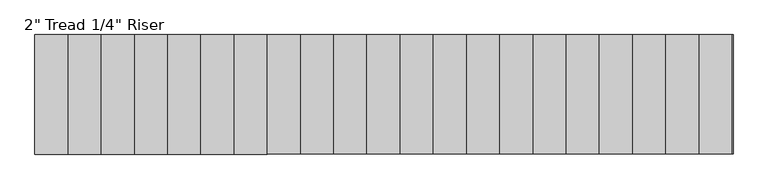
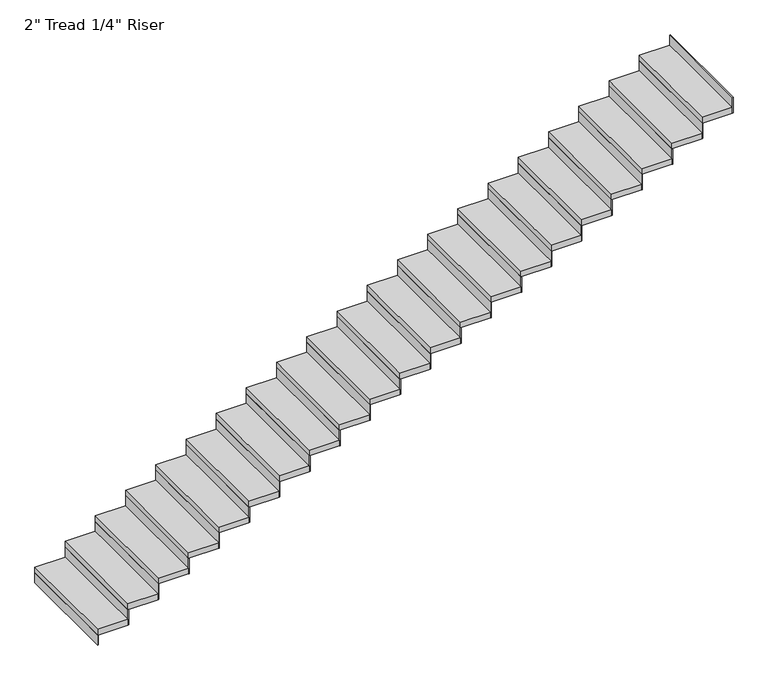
"""IFC4 building model written with IfcOpenShell, lengths in millimetres: stair flight geometry."""

from ifc_helpers import new_model, si_unit, frame, origin, origin_with_axes, place, context, project, spatial, polyline, outline, extrude, source, transform, mapped, element, save


def stair_flight_a9e391cd(model_context):
    return source(origin(), model_context, "Body", "SweptSolid", [
        extrude(outline(polyline([(35788.4072927, -52193.6426165), (35782.0572927, -52193.6426165), (35782.0572927, -51279.2426165), (35788.4072927, -51279.2426165), (35788.4072927, -52193.6426165)])), origin_with_axes(), (0.0, 0.0, 1.0), 87.7454545),
        extrude(outline(polyline([(36036.0572927, -51279.2426165), (36036.0572927, -52193.6426165), (35782.0572927, -52193.6426165), (35782.0572927, -51279.2426165), (36036.0572927, -51279.2426165)])), frame((0.0, 0.0, 87.7454545), z_axis=(0.0, 0.0, 1.0), x_axis=(1.0, 0.0, 0.0)), (0.0, 0.0, 1.0), 50.8),
        extrude(outline(polyline([(36042.4072927, -52193.6426165), (36036.0572927, -52193.6426165), (36036.0572927, -51279.2426165), (36042.4072927, -51279.2426165), (36042.4072927, -52193.6426165)])), frame((0.0, 0.0, 87.7454545), z_axis=(0.0, 0.0, 1.0), x_axis=(1.0, 0.0, 0.0)), (0.0, 0.0, 1.0), 138.5454545),
        extrude(outline(polyline([(36290.0572927, -51279.2426165), (36290.0572927, -52193.6426165), (36036.0572927, -52193.6426165), (36036.0572927, -51279.2426165), (36290.0572927, -51279.2426165)])), frame((0.0, 0.0, 226.2909091), z_axis=(0.0, 0.0, 1.0), x_axis=(1.0, 0.0, 0.0)), (0.0, 0.0, 1.0), 50.8),
        extrude(outline(polyline([(36296.4072927, -52193.6426165), (36290.0572927, -52193.6426165), (36290.0572927, -51279.2426165), (36296.4072927, -51279.2426165), (36296.4072927, -52193.6426165)])), frame((0.0, 0.0, 226.2909091), z_axis=(0.0, 0.0, 1.0), x_axis=(1.0, 0.0, 0.0)), (0.0, 0.0, 1.0), 138.5454545),
        extrude(outline(polyline([(36544.0572927, -51279.2426165), (36544.0572927, -52193.6426165), (36290.0572927, -52193.6426165), (36290.0572927, -51279.2426165), (36544.0572927, -51279.2426165)])), frame((0.0, 0.0, 364.8363636), z_axis=(0.0, 0.0, 1.0), x_axis=(1.0, 0.0, 0.0)), (0.0, 0.0, 1.0), 50.8),
        extrude(outline(polyline([(36550.4072927, -52193.6426165), (36544.0572927, -52193.6426165), (36544.0572927, -51279.2426165), (36550.4072927, -51279.2426165), (36550.4072927, -52193.6426165)])), frame((0.0, 0.0, 364.8363636), z_axis=(0.0, 0.0, 1.0), x_axis=(1.0, 0.0, 0.0)), (0.0, 0.0, 1.0), 138.5454545),
        extrude(outline(polyline([(36798.0572927, -51279.2426165), (36798.0572927, -52193.6426165), (36544.0572927, -52193.6426165), (36544.0572927, -51279.2426165), (36798.0572927, -51279.2426165)])), frame((0.0, 0.0, 503.3818182), z_axis=(0.0, 0.0, 1.0), x_axis=(1.0, 0.0, 0.0)), (0.0, 0.0, 1.0), 50.8),
        extrude(outline(polyline([(36804.4072927, -52193.6426165), (36798.0572927, -52193.6426165), (36798.0572927, -51279.2426165), (36804.4072927, -51279.2426165), (36804.4072927, -52193.6426165)])), frame((0.0, 0.0, 503.3818182), z_axis=(0.0, 0.0, 1.0), x_axis=(1.0, 0.0, 0.0)), (0.0, 0.0, 1.0), 138.5454545),
        extrude(outline(polyline([(37052.0572927, -51279.2426165), (37052.0572927, -52193.6426165), (36798.0572927, -52193.6426165), (36798.0572927, -51279.2426165), (37052.0572927, -51279.2426165)])), frame((0.0, 0.0, 641.9272727), z_axis=(0.0, 0.0, 1.0), x_axis=(1.0, 0.0, 0.0)), (0.0, 0.0, 1.0), 50.8),
        extrude(outline(polyline([(37058.4072927, -52193.6426165), (37052.0572927, -52193.6426165), (37052.0572927, -51279.2426165), (37058.4072927, -51279.2426165), (37058.4072927, -52193.6426165)])), frame((0.0, 0.0, 641.9272727), z_axis=(0.0, 0.0, 1.0), x_axis=(1.0, 0.0, 0.0)), (0.0, 0.0, 1.0), 138.5454545),
        extrude(outline(polyline([(37306.0572927, -51279.2426165), (37306.0572927, -52193.6426165), (37052.0572927, -52193.6426165), (37052.0572927, -51279.2426165), (37306.0572927, -51279.2426165)])), frame((0.0, 0.0, 780.4727273), z_axis=(0.0, 0.0, 1.0), x_axis=(1.0, 0.0, 0.0)), (0.0, 0.0, 1.0), 50.8),
        extrude(outline(polyline([(37312.4072927, -52193.6426165), (37306.0572927, -52193.6426165), (37306.0572927, -51279.2426165), (37312.4072927, -51279.2426165), (37312.4072927, -52193.6426165)])), frame((0.0, 0.0, 780.4727273), z_axis=(0.0, 0.0, 1.0), x_axis=(1.0, 0.0, 0.0)), (0.0, 0.0, 1.0), 138.5454545),
        extrude(outline(polyline([(37560.0572927, -51279.2426165), (37560.0572927, -52193.6426165), (37306.0572927, -52193.6426165), (37306.0572927, -51279.2426165), (37560.0572927, -51279.2426165)])), frame((0.0, 0.0, 919.0181818), z_axis=(0.0, 0.0, 1.0), x_axis=(1.0, 0.0, 0.0)), (0.0, 0.0, 1.0), 50.8),
        extrude(outline(polyline([(37566.4072927, -52193.6426165), (37560.0572927, -52193.6426165), (37560.0572927, -51279.2426165), (37566.4072927, -51279.2426165), (37566.4072927, -52193.6426165)])), frame((0.0, 0.0, 919.0181818), z_axis=(0.0, 0.0, 1.0), x_axis=(1.0, 0.0, 0.0)), (0.0, 0.0, 1.0), 138.5454545),
        extrude(outline(polyline([(37814.0572927, -51279.2426165), (37814.0572927, -52193.6426165), (37560.0572927, -52193.6426165), (37560.0572927, -51279.2426165), (37814.0572927, -51279.2426165)])), frame((0.0, 0.0, 1057.5636364), z_axis=(0.0, 0.0, 1.0), x_axis=(1.0, 0.0, 0.0)), (0.0, 0.0, 1.0), 50.8),
        extrude(outline(polyline([(37820.4072927, -52193.6426165), (37814.0572927, -52193.6426165), (37814.0572927, -51279.2426165), (37820.4072927, -51279.2426165), (37820.4072927, -52193.6426165)])), frame((0.0, 0.0, 1057.5636364), z_axis=(0.0, 0.0, 1.0), x_axis=(1.0, 0.0, 0.0)), (0.0, 0.0, 1.0), 138.5454545),
        extrude(outline(polyline([(38068.0572927, -51279.2426165), (38068.0572927, -52193.6426165), (37814.0572927, -52193.6426165), (37814.0572927, -51279.2426165), (38068.0572927, -51279.2426165)])), frame((0.0, 0.0, 1196.1090909), z_axis=(0.0, 0.0, 1.0), x_axis=(1.0, 0.0, 0.0)), (0.0, 0.0, 1.0), 50.8),
        extrude(outline(polyline([(38074.4072927, -52193.6426165), (38068.0572927, -52193.6426165), (38068.0572927, -51279.2426165), (38074.4072927, -51279.2426165), (38074.4072927, -52193.6426165)])), frame((0.0, 0.0, 1196.1090909), z_axis=(0.0, 0.0, 1.0), x_axis=(1.0, 0.0, 0.0)), (0.0, 0.0, 1.0), 138.5454545),
        extrude(outline(polyline([(38322.0572927, -51279.2426165), (38322.0572927, -52193.6426165), (38068.0572927, -52193.6426165), (38068.0572927, -51279.2426165), (38322.0572927, -51279.2426165)])), frame((0.0, 0.0, 1334.6545455), z_axis=(0.0, 0.0, 1.0), x_axis=(1.0, 0.0, 0.0)), (0.0, 0.0, 1.0), 50.8),
        extrude(outline(polyline([(38328.4072927, -52193.6426165), (38322.0572927, -52193.6426165), (38322.0572927, -51279.2426165), (38328.4072927, -51279.2426165), (38328.4072927, -52193.6426165)])), frame((0.0, 0.0, 1334.6545455), z_axis=(0.0, 0.0, 1.0), x_axis=(1.0, 0.0, 0.0)), (0.0, 0.0, 1.0), 138.5454545),
        extrude(outline(polyline([(38576.0572927, -51279.2426165), (38576.0572927, -52193.6426165), (38322.0572927, -52193.6426165), (38322.0572927, -51279.2426165), (38576.0572927, -51279.2426165)])), frame((0.0, 0.0, 1473.2), z_axis=(0.0, 0.0, 1.0), x_axis=(1.0, 0.0, 0.0)), (0.0, 0.0, 1.0), 50.8),
        extrude(outline(polyline([(38582.4072927, -52193.6426165), (38576.0572927, -52193.6426165), (38576.0572927, -51279.2426165), (38582.4072927, -51279.2426165), (38582.4072927, -52193.6426165)])), frame((0.0, 0.0, 1473.2), z_axis=(0.0, 0.0, 1.0), x_axis=(1.0, 0.0, 0.0)), (0.0, 0.0, 1.0), 138.5454545),
        extrude(outline(polyline([(38830.0572927, -51279.2426165), (38830.0572927, -52193.6426165), (38576.0572927, -52193.6426165), (38576.0572927, -51279.2426165), (38830.0572927, -51279.2426165)])), frame((0.0, 0.0, 1611.7454545), z_axis=(0.0, 0.0, 1.0), x_axis=(1.0, 0.0, 0.0)), (0.0, 0.0, 1.0), 50.8),
        extrude(outline(polyline([(38836.4072927, -52193.6426165), (38830.0572927, -52193.6426165), (38830.0572927, -51279.2426165), (38836.4072927, -51279.2426165), (38836.4072927, -52193.6426165)])), frame((0.0, 0.0, 1611.7454545), z_axis=(0.0, 0.0, 1.0), x_axis=(1.0, 0.0, 0.0)), (0.0, 0.0, 1.0), 138.5454545),
        extrude(outline(polyline([(39084.0572927, -51279.2426165), (39084.0572927, -52193.6426165), (38830.0572927, -52193.6426165), (38830.0572927, -51279.2426165), (39084.0572927, -51279.2426165)])), frame((0.0, 0.0, 1750.2909091), z_axis=(0.0, 0.0, 1.0), x_axis=(1.0, 0.0, 0.0)), (0.0, 0.0, 1.0), 50.8),
        extrude(outline(polyline([(39090.4072927, -52193.6426165), (39084.0572927, -52193.6426165), (39084.0572927, -51279.2426165), (39090.4072927, -51279.2426165), (39090.4072927, -52193.6426165)])), frame((0.0, 0.0, 1750.2909091), z_axis=(0.0, 0.0, 1.0), x_axis=(1.0, 0.0, 0.0)), (0.0, 0.0, 1.0), 138.5454545),
        extrude(outline(polyline([(39338.0572927, -51279.2426165), (39338.0572927, -52193.6426165), (39084.0572927, -52193.6426165), (39084.0572927, -51279.2426165), (39338.0572927, -51279.2426165)])), frame((0.0, 0.0, 1888.8363636), z_axis=(0.0, 0.0, 1.0), x_axis=(1.0, 0.0, 0.0)), (0.0, 0.0, 1.0), 50.8),
        extrude(outline(polyline([(39344.4072927, -52193.6426165), (39338.0572927, -52193.6426165), (39338.0572927, -51279.2426165), (39344.4072927, -51279.2426165), (39344.4072927, -52193.6426165)])), frame((0.0, 0.0, 1888.8363636), z_axis=(0.0, 0.0, 1.0), x_axis=(1.0, 0.0, 0.0)), (0.0, 0.0, 1.0), 138.5454545),
        extrude(outline(polyline([(39592.0572927, -51279.2426165), (39592.0572927, -52193.6426165), (39338.0572927, -52193.6426165), (39338.0572927, -51279.2426165), (39592.0572927, -51279.2426165)])), frame((0.0, 0.0, 2027.3818182), z_axis=(0.0, 0.0, 1.0), x_axis=(1.0, 0.0, 0.0)), (0.0, 0.0, 1.0), 50.8),
        extrude(outline(polyline([(39598.4072927, -52193.6426165), (39592.0572927, -52193.6426165), (39592.0572927, -51279.2426165), (39598.4072927, -51279.2426165), (39598.4072927, -52193.6426165)])), frame((0.0, 0.0, 2027.3818182), z_axis=(0.0, 0.0, 1.0), x_axis=(1.0, 0.0, 0.0)), (0.0, 0.0, 1.0), 138.5454545),
        extrude(outline(polyline([(39846.0572927, -51279.2426165), (39846.0572927, -52193.6426165), (39592.0572927, -52193.6426165), (39592.0572927, -51279.2426165), (39846.0572927, -51279.2426165)])), frame((0.0, 0.0, 2165.9272727), z_axis=(0.0, 0.0, 1.0), x_axis=(1.0, 0.0, 0.0)), (0.0, 0.0, 1.0), 50.8),
        extrude(outline(polyline([(39852.4072927, -52193.6426165), (39846.0572927, -52193.6426165), (39846.0572927, -51279.2426165), (39852.4072927, -51279.2426165), (39852.4072927, -52193.6426165)])), frame((0.0, 0.0, 2165.9272727), z_axis=(0.0, 0.0, 1.0), x_axis=(1.0, 0.0, 0.0)), (0.0, 0.0, 1.0), 138.5454545),
        extrude(outline(polyline([(40100.0572927, -51279.2426165), (40100.0572927, -52193.6426165), (39846.0572927, -52193.6426165), (39846.0572927, -51279.2426165), (40100.0572927, -51279.2426165)])), frame((0.0, 0.0, 2304.4727273), z_axis=(0.0, 0.0, 1.0), x_axis=(1.0, 0.0, 0.0)), (0.0, 0.0, 1.0), 50.8),
        extrude(outline(polyline([(40106.4072927, -52193.6426165), (40100.0572927, -52193.6426165), (40100.0572927, -51279.2426165), (40106.4072927, -51279.2426165), (40106.4072927, -52193.6426165)])), frame((0.0, 0.0, 2304.4727273), z_axis=(0.0, 0.0, 1.0), x_axis=(1.0, 0.0, 0.0)), (0.0, 0.0, 1.0), 138.5454545),
        extrude(outline(polyline([(40354.0572927, -51279.2426165), (40354.0572927, -52193.6426165), (40100.0572927, -52193.6426165), (40100.0572927, -51279.2426165), (40354.0572927, -51279.2426165)])), frame((0.0, 0.0, 2443.0181818), z_axis=(0.0, 0.0, 1.0), x_axis=(1.0, 0.0, 0.0)), (0.0, 0.0, 1.0), 50.8),
        extrude(outline(polyline([(40360.4072927, -52193.6426165), (40354.0572927, -52193.6426165), (40354.0572927, -51279.2426165), (40360.4072927, -51279.2426165), (40360.4072927, -52193.6426165)])), frame((0.0, 0.0, 2443.0181818), z_axis=(0.0, 0.0, 1.0), x_axis=(1.0, 0.0, 0.0)), (0.0, 0.0, 1.0), 138.5454545),
        extrude(outline(polyline([(40608.0572927, -51279.2426165), (40608.0572927, -52193.6426165), (40354.0572927, -52193.6426165), (40354.0572927, -51279.2426165), (40608.0572927, -51279.2426165)])), frame((0.0, 0.0, 2581.5636364), z_axis=(0.0, 0.0, 1.0), x_axis=(1.0, 0.0, 0.0)), (0.0, 0.0, 1.0), 50.8),
        extrude(outline(polyline([(40614.4072927, -52193.6426165), (40608.0572927, -52193.6426165), (40608.0572927, -51279.2426165), (40614.4072927, -51279.2426165), (40614.4072927, -52193.6426165)])), frame((0.0, 0.0, 2581.5636364), z_axis=(0.0, 0.0, 1.0), x_axis=(1.0, 0.0, 0.0)), (0.0, 0.0, 1.0), 138.5454545),
        extrude(outline(polyline([(40862.0572927, -51279.2426165), (40862.0572927, -52193.6426165), (40608.0572927, -52193.6426165), (40608.0572927, -51279.2426165), (40862.0572927, -51279.2426165)])), frame((0.0, 0.0, 2720.1090909), z_axis=(0.0, 0.0, 1.0), x_axis=(1.0, 0.0, 0.0)), (0.0, 0.0, 1.0), 50.8),
        extrude(outline(polyline([(40868.4072927, -52193.6426165), (40862.0572927, -52193.6426165), (40862.0572927, -51279.2426165), (40868.4072927, -51279.2426165), (40868.4072927, -52193.6426165)])), frame((0.0, 0.0, 2720.1090909), z_axis=(0.0, 0.0, 1.0), x_axis=(1.0, 0.0, 0.0)), (0.0, 0.0, 1.0), 138.5454545),
        extrude(outline(polyline([(41122.4072927, -52193.6426165), (41116.0572927, -52193.6426165), (41116.0572927, -51279.2426165), (41122.4072927, -51279.2426165), (41122.4072927, -52193.6426165)])), frame((0.0, 0.0, 2858.6545455), z_axis=(0.0, 0.0, 1.0), x_axis=(1.0, 0.0, 0.0)), (0.0, 0.0, 1.0), 138.5454545),
        extrude(outline(polyline([(41116.0572927, -51279.2426165), (41116.0572927, -52193.6426165), (40862.0572927, -52193.6426165), (40862.0572927, -51279.2426165), (41116.0572927, -51279.2426165)])), frame((0.0, 0.0, 2858.6545455), z_axis=(0.0, 0.0, 1.0), x_axis=(1.0, 0.0, 0.0)), (0.0, 0.0, 1.0), 50.8),
    ])


if __name__ == "__main__":
    model = new_model("IFC4")
    model_context = context("Model", 3, world=origin())
    ifc_project = project(units=[si_unit("LENGTHUNIT", "METRE", prefix="MILLI")], contexts=[model_context])
    site = spatial("IfcSite", under=ifc_project)
    building = spatial("IfcBuilding", under=site)
    placement = place(None, origin())
    stair_flight_shape = stair_flight_a9e391cd(model_context)
    element("IfcStairFlight", 1, ObjectType="2\" Tread 1/4\" Riser", at=placement, inside=building, context=model_context, shape_type="MappedRepresentation", body=[
        mapped(stair_flight_shape, transform((0.0, 0.0, 0.0), x_axis=(1.0, 0.0, 0.0), y_axis=(0.0, 1.0, 0.0), z_axis=(0.0, 0.0, 1.0))),
    ])
    save(model, "model.ifc")
